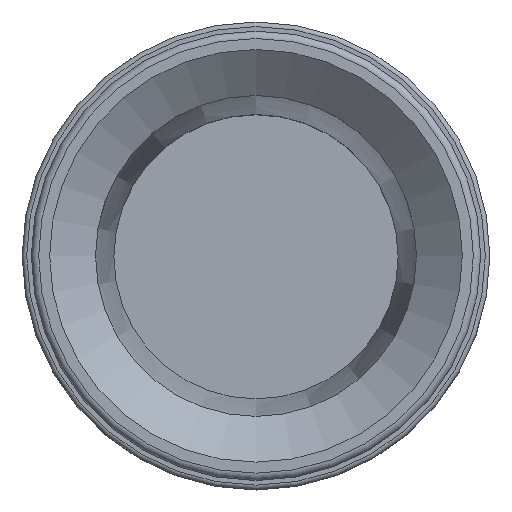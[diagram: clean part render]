
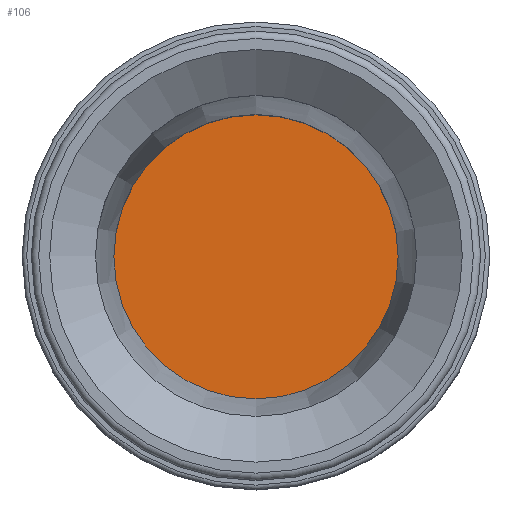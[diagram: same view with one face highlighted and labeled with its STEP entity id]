
A CAD part, top view. The second image highlights one B-rep face of the part: STEP entity #106.
In plain terms, the highlighted planar face has unit normal (0, 0, 1).
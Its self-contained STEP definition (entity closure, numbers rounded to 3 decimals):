
#106=ADVANCED_FACE('',(#206),#207,.F.);
#206=FACE_OUTER_BOUND('',#354,.T.);
#207=PLANE('',#355);
#354=EDGE_LOOP('',(#616));
#355=AXIS2_PLACEMENT_3D('',#617,#618,#619);
#616=ORIENTED_EDGE('',*,*,#834,.T.);
#617=CARTESIAN_POINT('',(-15.5,0.,-75.0));
#618=DIRECTION('',(0.0,0.,-1.0));
#619=DIRECTION('',(0.0,1.0,0.));
#834=EDGE_CURVE('',#971,#971,#972,.T.);
#971=VERTEX_POINT('',#1221);
#972=CIRCLE('',#1222,15.5);
#1221=CARTESIAN_POINT('',(0.0,-15.5,-75.0));
#1222=AXIS2_PLACEMENT_3D('',#1371,#1372,#1373);
#1371=CARTESIAN_POINT('',(0.0,0.,-75.0));
#1372=DIRECTION('',(0.0,0.,1.0));
#1373=DIRECTION('',(0.0,-1.0,0.));
